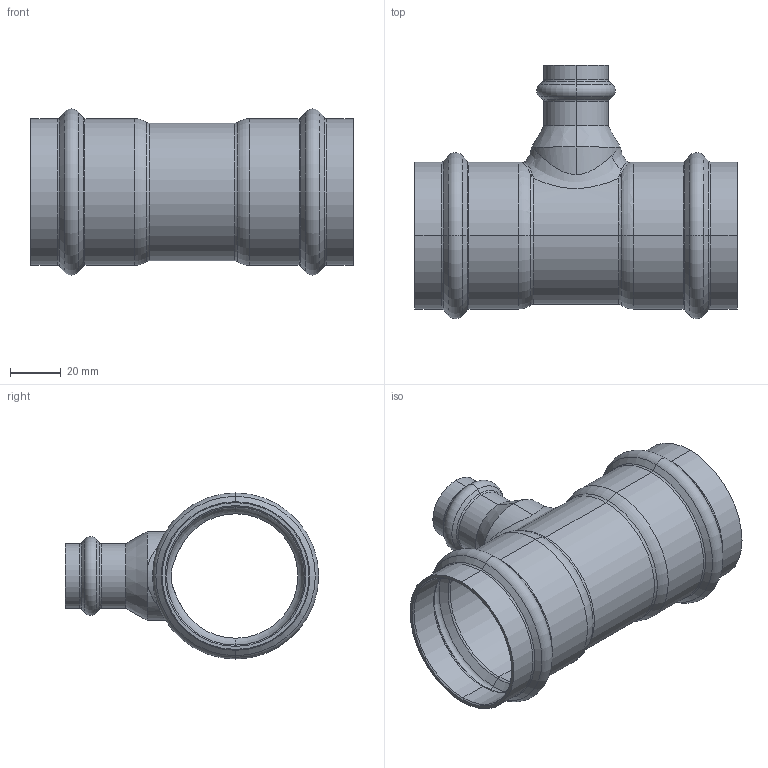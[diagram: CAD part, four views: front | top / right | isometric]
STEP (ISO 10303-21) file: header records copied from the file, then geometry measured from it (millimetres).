
FILE_DESCRIPTION (( 'STEP AP203' ), '1' );
FILE_NAME ('SP5130 Ø54-22-54.STEP', '2017-04-25T15:09:16', ( '' ), ( '' ), 'SwSTEP 2.0', 'SolidWorks 2016', '' );
FILE_SCHEMA (( 'CONFIG_CONTROL_DESIGN' ));
Length unit declared in the file: millimetre
Products named in the file (1): SP5130 Ø54-22-54
Bounding box: 127 x 99.7 x 65.4 mm (x, y, z)
Volume: 48773.3 mm3; surface area: 53758.7 mm2
Topology: 1 solids, 1 shells, 134 faces, 288 edges, 151 vertices
Faces by surface type: torus 50, cone 36, cylinder 35, bspline 10, plane 3
Entity records: 5085 total; most frequent: CARTESIAN_POINT 2124, DIRECTION 685, ORIENTED_EDGE 568, AXIS2_PLACEMENT_3D 309, EDGE_CURVE 284, CIRCLE 184, VERTEX_POINT 151, EDGE_LOOP 137
